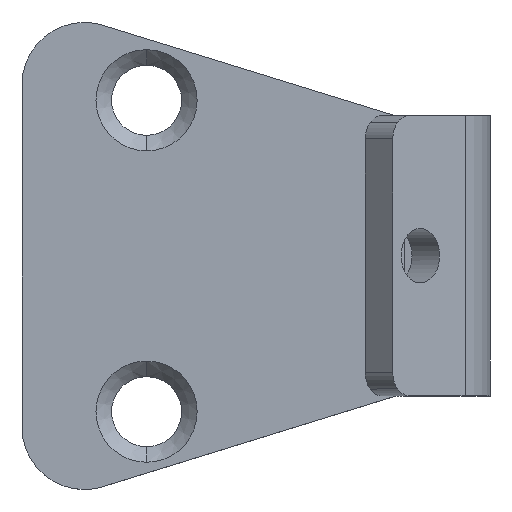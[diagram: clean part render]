
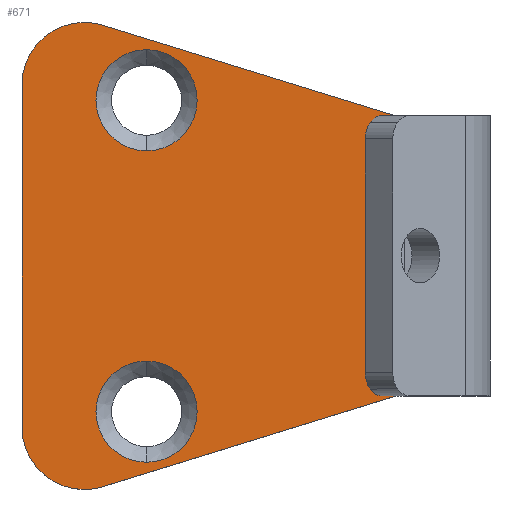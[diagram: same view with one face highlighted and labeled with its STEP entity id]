
A CAD part, top view. The second image highlights one B-rep face of the part: STEP entity #671.
In plain terms, the highlighted planar face has unit normal (0, 0, 1).
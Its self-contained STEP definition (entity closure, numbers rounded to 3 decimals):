
#141=CARTESIAN_POINT('',(-13.0,-12.0,1.5));
#142=VERTEX_POINT('',#141);
#151=CARTESIAN_POINT('',(-12.821,-10.818,1.5));
#152=VERTEX_POINT('',#151);
#153=CARTESIAN_POINT('',(-9.0,-12.0,1.5));
#154=DIRECTION('',(0.0,0.0,-1.0));
#155=DIRECTION('',(1.0,0.0,0.0));
#156=AXIS2_PLACEMENT_3D('',#153,#154,#155);
#157=CIRCLE('',#156,4.0);
#158=EDGE_CURVE('',#142,#152,#157,.T.);
#185=CARTESIAN_POINT('',(17.0,-12.,1.5));
#186=VERTEX_POINT('',#185);
#202=CARTESIAN_POINT('',(16.821,-10.818,1.5));
#203=VERTEX_POINT('',#202);
#210=CARTESIAN_POINT('',(13.0,-12.,1.5));
#211=DIRECTION('',(0.0,0.0,-1.0));
#212=DIRECTION('',(1.0,0.0,0.0));
#213=AXIS2_PLACEMENT_3D('',#210,#211,#212);
#214=CIRCLE('',#213,4.0);
#215=EDGE_CURVE('',#203,#186,#214,.T.);
#477=CARTESIAN_POINT('',(-11.25,-8.,1.5));
#478=VERTEX_POINT('',#477);
#485=CARTESIAN_POINT('',(-4.75,-8.,1.5));
#486=VERTEX_POINT('',#485);
#487=CARTESIAN_POINT('',(-8.0,-8.,1.5));
#488=DIRECTION('',(0.0,0.0,1.0));
#489=DIRECTION('',(-1.0,0.0,0.0));
#490=AXIS2_PLACEMENT_3D('',#487,#488,#489);
#491=CIRCLE('',#490,3.25);
#492=EDGE_CURVE('',#478,#486,#491,.T.);
#551=CARTESIAN_POINT('',(8.75,-8.,1.5));
#552=VERTEX_POINT('',#551);
#559=CARTESIAN_POINT('',(15.25,-8.,1.5));
#560=VERTEX_POINT('',#559);
#561=CARTESIAN_POINT('',(12.0,-8.,1.5));
#562=DIRECTION('',(0.0,0.0,1.0));
#563=DIRECTION('',(-1.0,0.0,0.0));
#564=AXIS2_PLACEMENT_3D('',#561,#562,#563);
#565=CIRCLE('',#564,3.25);
#566=EDGE_CURVE('',#552,#560,#565,.T.);
#592=CARTESIAN_POINT('',(12.0,-8.,1.5));
#593=DIRECTION('',(0.0,0.0,1.0));
#594=DIRECTION('',(-1.0,0.0,0.0));
#595=AXIS2_PLACEMENT_3D('',#592,#593,#594);
#596=CIRCLE('',#595,3.25);
#597=EDGE_CURVE('',#560,#552,#596,.T.);
#602=CARTESIAN_POINT('',(2.,-6.062,1.5));
#603=DIRECTION('',(0.0,0.0,1.0));
#604=DIRECTION('',(1.0,0.0,0.0));
#605=AXIS2_PLACEMENT_3D('',#602,#603,#604);
#606=PLANE('',#605);
#607=CARTESIAN_POINT('',(11.0,8.0,1.5));
#608=VERTEX_POINT('',#607);
#609=CARTESIAN_POINT('',(11.0,8.0,1.5));
#610=DIRECTION('',(0.296,-0.955,0.0));
#611=VECTOR('',#610,19.698);
#612=LINE('',#609,#611);
#613=EDGE_CURVE('',#608,#203,#612,.T.);
#614=ORIENTED_EDGE('',*,*,#613,.F.);
#615=CARTESIAN_POINT('',(-7.0,8.0,1.5));
#616=VERTEX_POINT('',#615);
#617=CARTESIAN_POINT('',(-7.0,8.0,1.5));
#618=DIRECTION('',(1.0,0.0,0.0));
#619=VECTOR('',#618,18.0);
#620=LINE('',#617,#619);
#621=EDGE_CURVE('',#616,#608,#620,.T.);
#622=ORIENTED_EDGE('',*,*,#621,.F.);
#623=CARTESIAN_POINT('',(-12.821,-10.818,1.5));
#624=DIRECTION('',(0.296,0.955,0.0));
#625=VECTOR('',#624,19.698);
#626=LINE('',#623,#625);
#627=EDGE_CURVE('',#152,#616,#626,.T.);
#628=ORIENTED_EDGE('',*,*,#627,.F.);
#629=ORIENTED_EDGE('',*,*,#158,.F.);
#630=CARTESIAN_POINT('',(-9.0,-16.,1.5));
#631=VERTEX_POINT('',#630);
#632=CARTESIAN_POINT('',(-9.0,-12.0,1.5));
#633=DIRECTION('',(0.0,0.0,-1.0));
#634=DIRECTION('',(1.0,0.0,0.0));
#635=AXIS2_PLACEMENT_3D('',#632,#633,#634);
#636=CIRCLE('',#635,4.0);
#637=EDGE_CURVE('',#631,#142,#636,.T.);
#638=ORIENTED_EDGE('',*,*,#637,.F.);
#639=CARTESIAN_POINT('',(13.0,-16.,1.5));
#640=VERTEX_POINT('',#639);
#641=CARTESIAN_POINT('',(13.0,-16.,1.5));
#642=DIRECTION('',(-1.0,0.0,0.0));
#643=VECTOR('',#642,22.0);
#644=LINE('',#641,#643);
#645=EDGE_CURVE('',#640,#631,#644,.T.);
#646=ORIENTED_EDGE('',*,*,#645,.F.);
#647=CARTESIAN_POINT('',(13.0,-12.,1.5));
#648=DIRECTION('',(0.0,0.0,-1.0));
#649=DIRECTION('',(1.0,0.0,0.0));
#650=AXIS2_PLACEMENT_3D('',#647,#648,#649);
#651=CIRCLE('',#650,4.0);
#652=EDGE_CURVE('',#186,#640,#651,.T.);
#653=ORIENTED_EDGE('',*,*,#652,.F.);
#654=ORIENTED_EDGE('',*,*,#215,.F.);
#655=EDGE_LOOP('',(#614,#622,#628,#629,#638,#646,#653,#654));
#656=FACE_OUTER_BOUND('',#655,.T.);
#657=CARTESIAN_POINT('',(-8.0,-8.,1.5));
#658=DIRECTION('',(0.0,0.0,1.0));
#659=DIRECTION('',(-1.0,0.0,0.0));
#660=AXIS2_PLACEMENT_3D('',#657,#658,#659);
#661=CIRCLE('',#660,3.25);
#662=EDGE_CURVE('',#486,#478,#661,.T.);
#663=ORIENTED_EDGE('',*,*,#662,.F.);
#664=ORIENTED_EDGE('',*,*,#492,.F.);
#665=EDGE_LOOP('',(#663,#664));
#666=FACE_BOUND('',#665,.T.);
#667=ORIENTED_EDGE('',*,*,#597,.F.);
#668=ORIENTED_EDGE('',*,*,#566,.F.);
#669=EDGE_LOOP('',(#667,#668));
#670=FACE_BOUND('',#669,.T.);
#671=ADVANCED_FACE('',(#656,#666,#670),#606,.T.);
